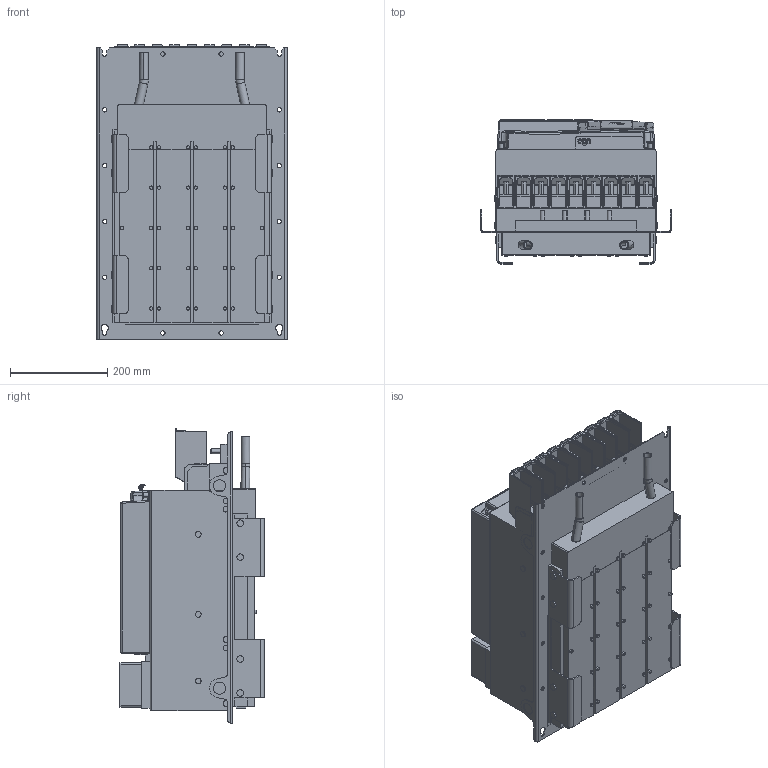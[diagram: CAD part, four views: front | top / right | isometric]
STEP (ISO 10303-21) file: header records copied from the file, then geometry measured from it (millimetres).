
FILE_DESCRIPTION (( 'STEP AP214' ), '1' );
FILE_NAME ('F6-7 TK5-K001.STEP', '2023-11-20T09:43:01', ( '' ), ( '' ), 'SwSTEP 2.0', 'SolidWorks 2022', '' );
FILE_SCHEMA (( 'AUTOMOTIVE_DESIGN' ));
Length unit declared in the file: millimetre
Products named in the file (13): Kundenmodell^10061502_000; 10035735_000_Kundenmodell; 10059764_000_Blindabdeckung (Kundenmodell); Kundenmodell mit Zubehör^10078335_000; Kundenmodell^10043622_000; Kundenmodell^10035735_000; 10045475_000_Gehäusebaugruppe F6-7 (Kundenmodell); Kundenmodell^10059764_000; 10043622_000_70F6 Klemme (Kundenmodell); 10078335_000_Leistungsteil + BW F6-7 TW5 (Kundenmodell); F6-7 TK5-K001; Kundenmodell^10045475_000_Gehäusebaugruppe ohne Lüfterkarte; 10061502_000_Deckel (Kundenmodell)
Assembly tree (12 placements, depth 4):
  F6-7 TK5-K001
    10078335_000_Leistungsteil + BW F6-7 TW5 (Kundenmodell)
      10043622_000_70F6 Klemme (Kundenmodell)
        Kundenmodell^10043622_000
      Kundenmodell mit Zubehör^10078335_000
    10045475_000_Gehäusebaugruppe F6-7 (Kundenmodell)
      10061502_000_Deckel (Kundenmodell)
        Kundenmodell^10061502_000
      Kundenmodell^10045475_000_Gehäusebaugruppe ohne Lüfterkarte
    10035735_000_Kundenmodell
      10059764_000_Blindabdeckung (Kundenmodell)
        Kundenmodell^10059764_000
      Kundenmodell^10035735_000
Bounding box: 392 x 296.9 x 606.26 mm (x, y, z)
Volume: 43536020 mm3; surface area: 2182744.8 mm2
Topology: 12 solids, 20 shells, 3549 faces, 9118 edges, 5650 vertices
Faces by surface type: plane 1776, cylinder 1143, bspline 281, sphere 172, cone 96, torus 81
Entity records: 114282 total; most frequent: CARTESIAN_POINT 30180, ORIENTED_EDGE 18016, DIRECTION 16641, EDGE_CURVE 9008, VERTEX_POINT 5647, VECTOR 5595, LINE 5595, AXIS2_PLACEMENT_3D 5523
